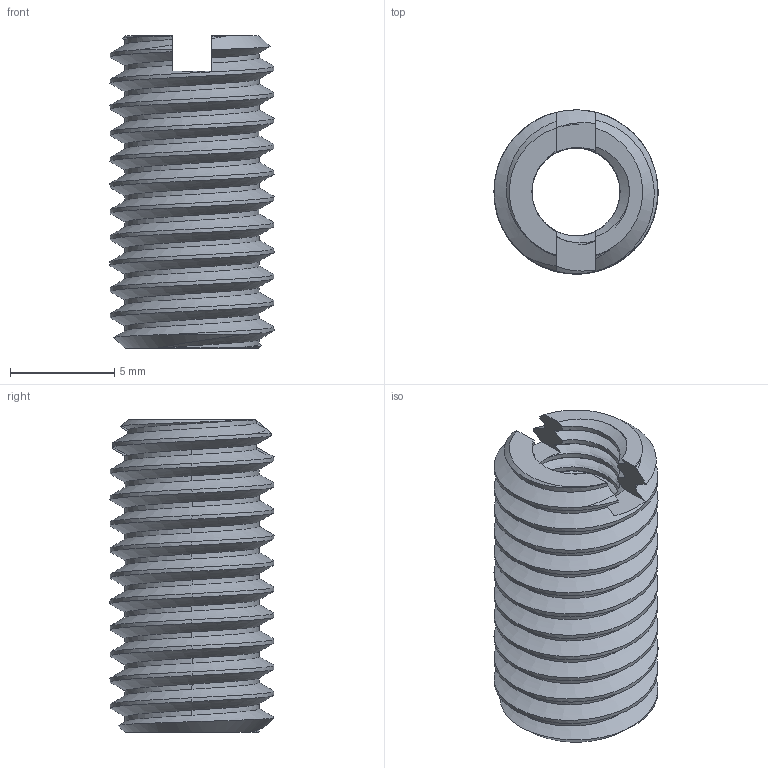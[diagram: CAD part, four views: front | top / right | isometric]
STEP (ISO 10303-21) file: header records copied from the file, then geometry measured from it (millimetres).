
FILE_DESCRIPTION(/* description */ (''),/* implementation_level */ '2;1');
FILE_NAME(/* name */ 'Thread Reducer - M8 to M5.step',/* time_stamp */ '2025-09-22T22:54:44+03:00',/* author */ (''),/* organization */ (''),/* preprocessor_version */ 'ST-DEVELOPER v20.1',/* originating_system */ 'Autodesk Translation Framework v14.10.0.0',/* authorisation */ '');
FILE_SCHEMA (('AUTOMOTIVE_DESIGN { 1 0 10303 214 3 1 1 }'));
Length unit declared in the file: millimetre
Products named in the file (1): Configuration 1
Bounding box: 7.88 x 7.88 x 15 mm (x, y, z)
Volume: 338.9 mm3; surface area: 929.3 mm2
Topology: 1 solids, 1 shells, 103 faces, 306 edges, 204 vertices
Faces by surface type: cylinder 72, bspline 18, plane 9, cone 4
Full cylindrical faces by diameter (mm): 4.234 x10, 5.12 x4, 6.446 x6, 7.866 x4
Entity records: 7895 total; most frequent: CARTESIAN_POINT 5535, ORIENTED_EDGE 612, EDGE_CURVE 306, DIRECTION 294, VERTEX_POINT 204, B_SPLINE_CURVE_WITH_KNOTS 193, EDGE_LOOP 104, FACE_OUTER_BOUND 103
